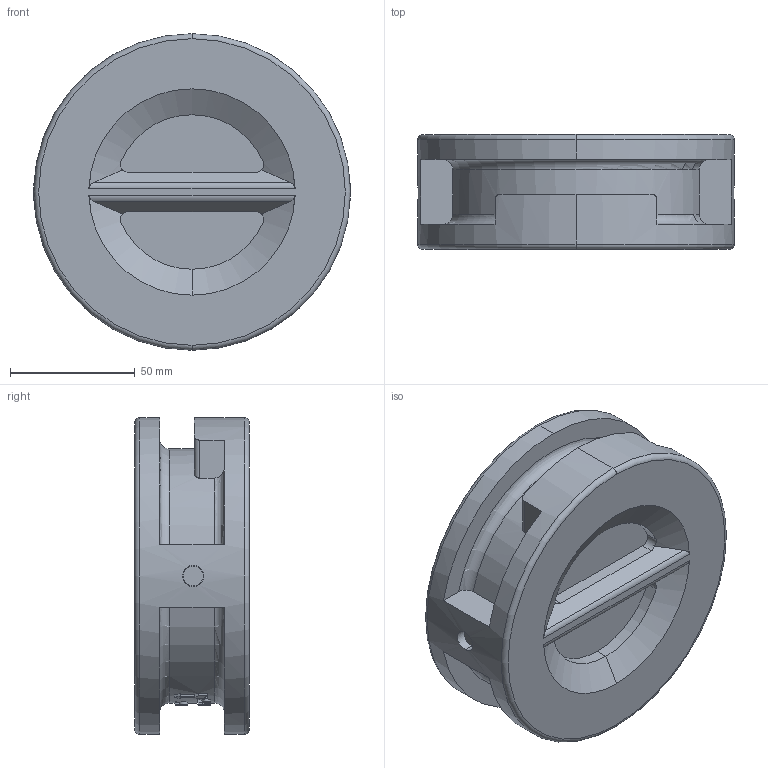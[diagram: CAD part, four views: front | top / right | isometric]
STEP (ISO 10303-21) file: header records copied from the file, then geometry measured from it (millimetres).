
FILE_DESCRIPTION (( 'STEP AP214' ), '1' );
FILE_NAME ('65砦隙.STEP', '2024-06-29T13:30:15', ( '' ), ( '' ), 'SwSTEP 2.0', 'SolidWorks 2021', '' );
FILE_SCHEMA (( 'AUTOMOTIVE_DESIGN' ));
Length unit declared in the file: millimetre
Products named in the file (1): 65砦隙
Bounding box: 127 x 46 x 127 mm (x, y, z)
Volume: 296682 mm3; surface area: 65925.4 mm2
Topology: 1 solids, 1 shells, 217 faces, 569 edges, 377 vertices
Faces by surface type: plane 118, cylinder 55, bspline 30, torus 11, cone 3
Entity records: 9836 total; most frequent: CARTESIAN_POINT 4607, ORIENTED_EDGE 1138, DIRECTION 961, EDGE_CURVE 569, VERTEX_POINT 377, AXIS2_PLACEMENT_3D 350, LINE 261, VECTOR 261
